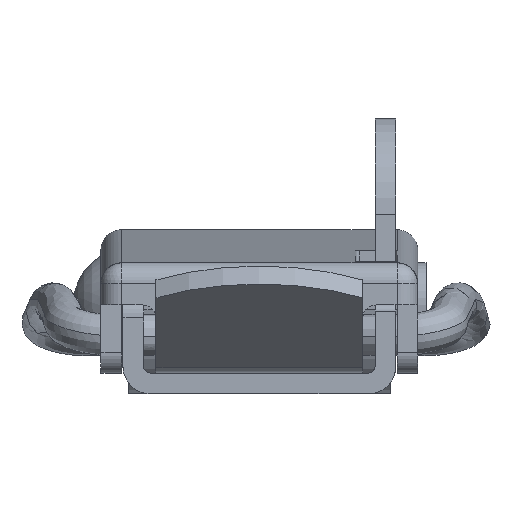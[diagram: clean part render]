
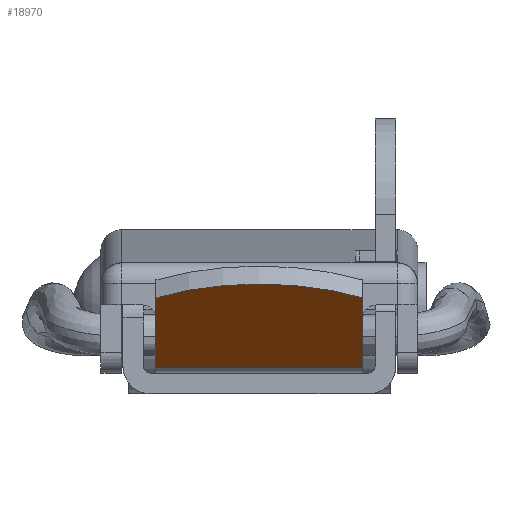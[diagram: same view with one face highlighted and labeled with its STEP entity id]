
A CAD part, left-side view. The second image highlights one B-rep face of the part: STEP entity #18970.
In plain terms, the highlighted planar face has unit normal (-0.5, 0, -0.866) as drawn and (-0.5, -0.866, 0) by its records, which use the part's own axes.
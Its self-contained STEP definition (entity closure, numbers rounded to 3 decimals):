
#16820=CARTESIAN_POINT('',(-4.123,26.171,4.));
#16830=VERTEX_POINT('',#16820);
#16860=CARTESIAN_POINT('',(-4.123,26.171,4.));
#16870=DIRECTION('',(0.,0.,-1.));
#16880=VECTOR('',#16870,1.);
#16890=LINE('',#16860,#16880);
#16900=CARTESIAN_POINT('',(-4.123,26.171,19.));
#16910=VERTEX_POINT('',#16900);
#16920=EDGE_CURVE('',#16910,#16830,#16890,.T.);
#18000=CARTESIAN_POINT('',(-0.2,23.906,19.));
#18010=DIRECTION('',(0.866,-0.5,0.));
#18020=VECTOR('',#18010,1.);
#18030=LINE('',#18000,#18020);
#18040=CARTESIAN_POINT('',(-12.883,31.229,19.));
#18050=VERTEX_POINT('',#18040);
#18060=EDGE_CURVE('',#18050,#16910,#18030,.T.);
#18660=CARTESIAN_POINT('',(-12.883,31.229,4.));
#18670=VERTEX_POINT('',#18660);
#18700=CARTESIAN_POINT('',(-4.123,26.171,4.));
#18710=DIRECTION('',(-0.866,0.5,0.));
#18720=VECTOR('',#18710,1.);
#18730=LINE('',#18700,#18720);
#18740=EDGE_CURVE('',#16830,#18670,#18730,.T.);
#18800=CARTESIAN_POINT('',(-4.123,26.171,4.));
#18810=DIRECTION('',(-0.5,-0.866,0.));
#18820=DIRECTION('',(0.866,-0.5,0.));
#18830=AXIS2_PLACEMENT_3D('',#18800,#18810,#18820);
#18840=PLANE('',#18830);
#18850=ORIENTED_EDGE('',*,*,#18060,.F.);
#18860=ORIENTED_EDGE('',*,*,#16920,.F.);
#18870=ORIENTED_EDGE('',*,*,#18740,.F.);
#18880=CARTESIAN_POINT('',(-1.633,24.733,11.5));
#18890=DIRECTION('',(0.5,0.866,0.));
#18900=DIRECTION('',(-0.866,0.5,0.));
#18910=AXIS2_PLACEMENT_3D('',#18880,#18890,#18900);
#18920=CIRCLE('',#18910,15.);
#18930=EDGE_CURVE('',#18670,#18050,#18920,.T.);
#18940=ORIENTED_EDGE('',*,*,#18930,.F.);
#18950=EDGE_LOOP('',(#18940,#18870,#18860,#18850));
#18960=FACE_OUTER_BOUND('',#18950,.T.);
#18970=ADVANCED_FACE('',(#18960),#18840,.T.);
